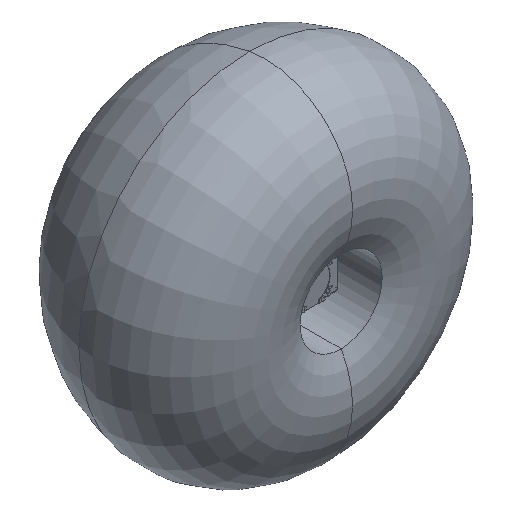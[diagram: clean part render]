
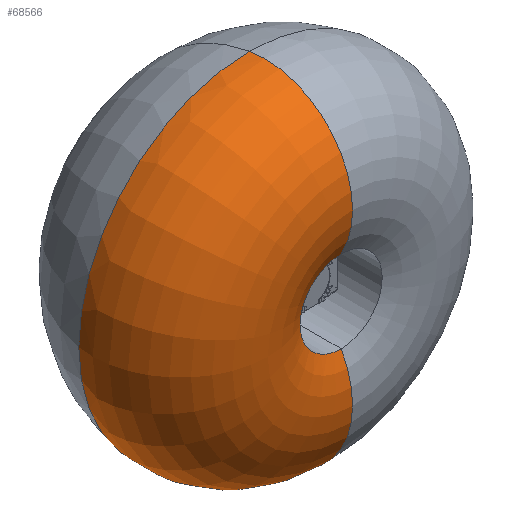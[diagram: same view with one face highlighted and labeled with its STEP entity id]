
A CAD part, isometric view. The second image highlights one B-rep face of the part: STEP entity #68566.
In plain terms, the highlighted toroidal (fillet/blend) face has major radius 1565.55 mm and minor radius 1627.34 mm.
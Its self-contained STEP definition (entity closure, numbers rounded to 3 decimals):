
#647 = AXIS2_PLACEMENT_3D ( 'NONE', #40070, #7088, #76371 ) ;
#5661 = ORIENTED_EDGE ( 'NONE', *, *, #19067, .T. ) ;
#7088 = DIRECTION ( 'NONE',  ( 0., 1., 0. ) ) ;
#19067 = EDGE_CURVE ( 'NONE', #35186, #139538, #92671, .T. ) ;
#29875 = CARTESIAN_POINT ( 'NONE',  ( 425.383, -1927.309, 0. ) ) ;
#35186 = VERTEX_POINT ( 'NONE', #99235 ) ;
#36575 = EDGE_LOOP ( 'NONE', ( #88922, #5661, #154851, #84160 ) ) ;
#39357 = EDGE_CURVE ( 'NONE', #35186, #70290, #88264, .T. ) ;
#40070 = CARTESIAN_POINT ( 'NONE',  ( 425.383, -230.045, 0. ) ) ;
#57712 = EDGE_CURVE ( 'NONE', #139538, #131799, #137440, .T. ) ;
#58028 = DIRECTION ( 'NONE',  ( 1., 0., 0. ) ) ;
#61404 = CARTESIAN_POINT ( 'NONE',  ( 425.383, -512.629, 0. ) ) ;
#66215 = DIRECTION ( 'NONE',  ( 0., 1., 0. ) ) ;
#68082 = CARTESIAN_POINT ( 'NONE',  ( 425.383, -230.045, -3168.168 ) ) ;
#68566 = ADVANCED_FACE ( 'NONE', ( #75064 ), #219636, .T. ) ;
#70290 = VERTEX_POINT ( 'NONE', #68082 ) ;
#72173 = AXIS2_PLACEMENT_3D ( 'NONE', #153571, #222917, #207012 ) ;
#75064 = FACE_OUTER_BOUND ( 'NONE', #36575, .T. ) ;
#76371 = DIRECTION ( 'NONE',  ( 0., 0., 1. ) ) ;
#79564 = DIRECTION ( 'NONE',  ( 0., 1., 0. ) ) ;
#84160 = ORIENTED_EDGE ( 'NONE', *, *, #149671, .F. ) ;
#88264 = CIRCLE ( 'NONE', #146267, 1627.337 ) ;
#88922 = ORIENTED_EDGE ( 'NONE', *, *, #39357, .F. ) ;
#92671 = CIRCLE ( 'NONE', #132037, 761.249 ) ;
#94835 = CARTESIAN_POINT ( 'NONE',  ( 425.383, -230.045, 3168.168 ) ) ;
#99235 = CARTESIAN_POINT ( 'NONE',  ( 425.383, -1927.309, -761.249 ) ) ;
#117268 = DIRECTION ( 'NONE',  ( 0., 0., 1. ) ) ;
#123844 = CIRCLE ( 'NONE', #647, 3168.168 ) ;
#127269 = DIRECTION ( 'NONE',  ( 0., 0., 1. ) ) ;
#131716 = DIRECTION ( 'NONE',  ( 0., 0., -1. ) ) ;
#131799 = VERTEX_POINT ( 'NONE', #94835 ) ;
#132037 = AXIS2_PLACEMENT_3D ( 'NONE', #29875, #66215, #117268 ) ;
#137440 = CIRCLE ( 'NONE', #72173, 1627.337 ) ;
#139538 = VERTEX_POINT ( 'NONE', #204213 ) ;
#145404 = CARTESIAN_POINT ( 'NONE',  ( 425.383, -512.629, -1565.554 ) ) ;
#146267 = AXIS2_PLACEMENT_3D ( 'NONE', #145404, #58028, #131716 ) ;
#149671 = EDGE_CURVE ( 'NONE', #70290, #131799, #123844, .T. ) ;
#153571 = CARTESIAN_POINT ( 'NONE',  ( 425.383, -512.629, 1565.554 ) ) ;
#154707 = AXIS2_PLACEMENT_3D ( 'NONE', #61404, #79564, #127269 ) ;
#154851 = ORIENTED_EDGE ( 'NONE', *, *, #57712, .T. ) ;
#204213 = CARTESIAN_POINT ( 'NONE',  ( 425.383, -1927.309, 761.249 ) ) ;
#207012 = DIRECTION ( 'NONE',  ( 0., 0., 1. ) ) ;
#219636 = TOROIDAL_SURFACE ( 'NONE', #154707, 1565.554, 1627.337 ) ;
#222917 = DIRECTION ( 'NONE',  ( -1., 0., 0. ) ) ;
